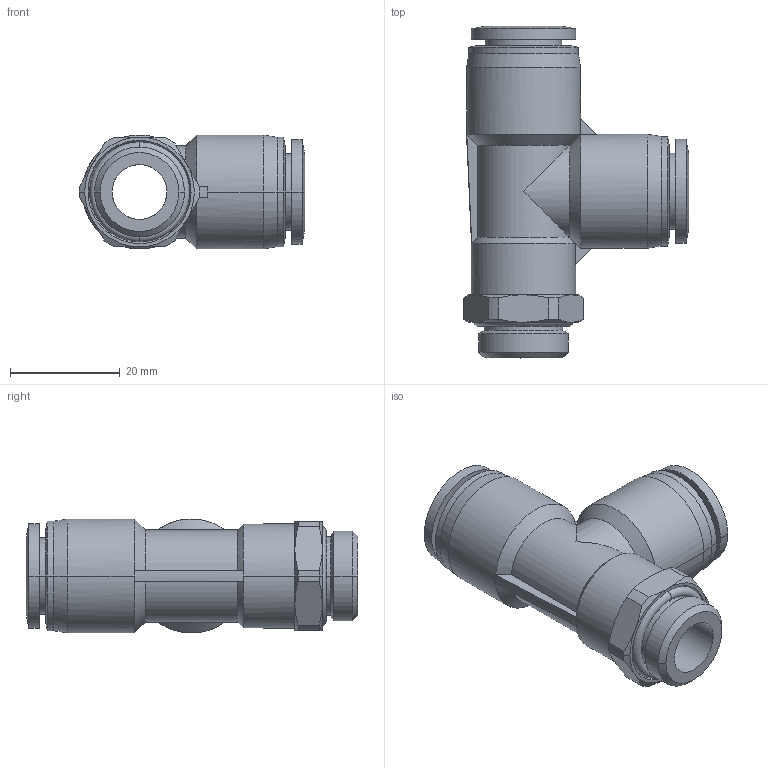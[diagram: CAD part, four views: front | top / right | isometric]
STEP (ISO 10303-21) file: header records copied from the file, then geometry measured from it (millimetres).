
FILE_DESCRIPTION (( 'STEP AP203' ), '1' );
FILE_NAME ('FLT12-03.STEP', '2020-05-12T14:19:22', ( '' ), ( '' ), 'SwSTEP 2.0', 'SolidWorks 2019', '' );
FILE_SCHEMA (( 'CONFIG_CONTROL_DESIGN' ));
Length unit declared in the file: millimetre
Products named in the file (1): FLT12-03
Bounding box: 41.15 x 60.55 x 20.78 mm (x, y, z)
Surface area: 9574.1 mm2 (no closed solid volume)
Topology: 0 solids, 4 shells, 118 faces, 286 edges, 179 vertices
Faces by surface type: cylinder 44, cone 38, plane 27, bspline 5, torus 4
Entity records: 6123 total; most frequent: CARTESIAN_POINT 3786, ORIENTED_EDGE 556, DIRECTION 291, EDGE_CURVE 286, B_SPLINE_CURVE_WITH_KNOTS 215, VERTEX_POINT 179, EDGE_LOOP 131, ADVANCED_FACE 118
